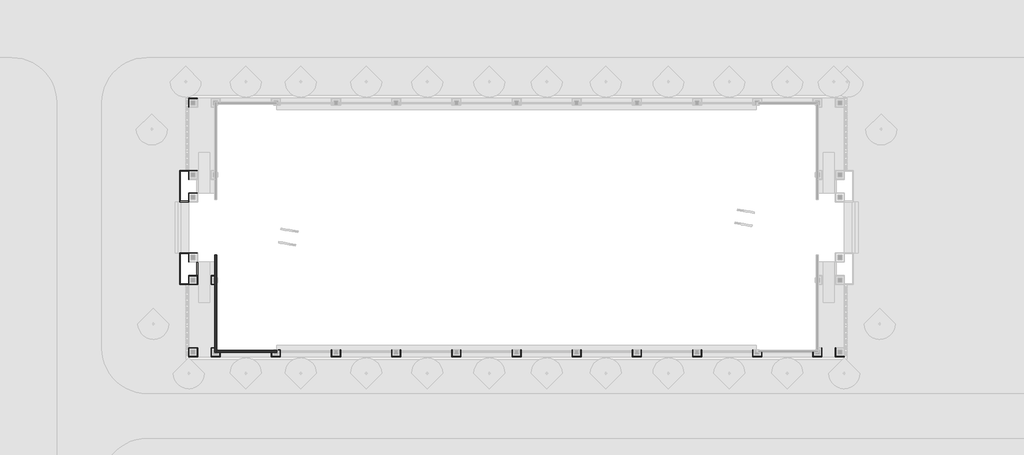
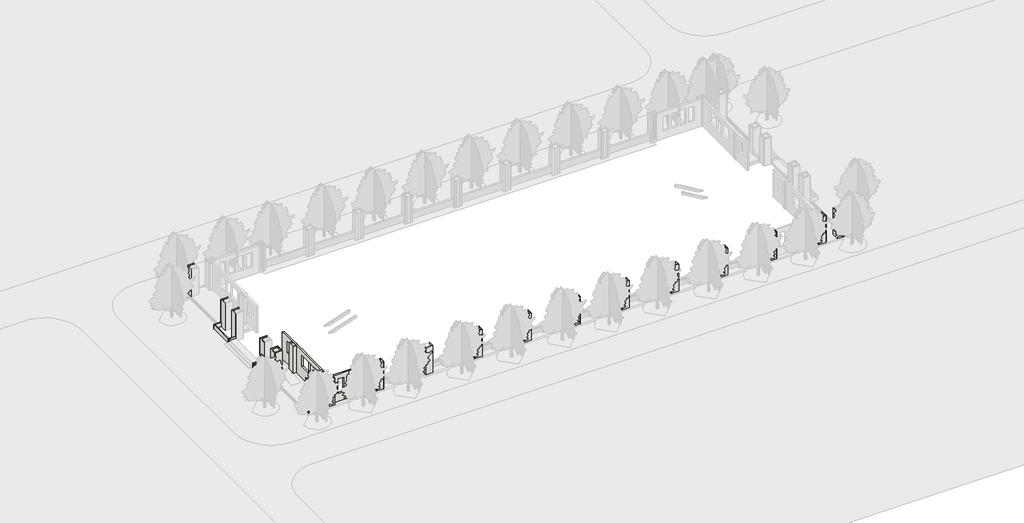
# One storey, part 1 of 5: 65 walls.
"""IFC4 building model written with IfcOpenShell, lengths in millimetres."""

import ifcopenshell
import ifcopenshell.guid

model = None  # the IFC model being written
_history = None  # IfcOwnerHistory: only IFC2X3 demands one
_inside = {}  # id of a spatial element -> (the spatial element, [elements in it])
_under = {}  # id of a project, library or spatial element -> (it, [spatial elements below it])
_declared = {}  # id of a project -> (the project, [libraries it declares])
_typed = {}  # id of a type object -> (the type object, [elements of that type])
_made_of = {}  # id of a material, layer set ... -> (it, [elements and type objects made of it])


def new_model(schema):
    """Start an empty IFC model of exactly this schema.

    Asked for "IFC4X3", IfcOpenShell would pick the latest addendum, in which some entities
    have other attributes; the version numbers below select the first issue.
    IFC2X3 requires an IfcOwnerHistory on every rooted entity: one is made here for all.
    """
    global model, _history
    if schema == "IFC4X3":
        model = ifcopenshell.file(schema_version=(4, 3, 0, 0))
    else:
        model = ifcopenshell.file(schema=schema)
    _inside.clear()
    _under.clear()
    _declared.clear()
    _typed.clear()
    _made_of.clear()
    _history = None
    if model.schema == "IFC2X3":
        org = make("IfcOrganization", Name="unknown")
        user = make(
            "IfcPersonAndOrganization",
            ThePerson=make("IfcPerson", FamilyName="unknown"),
            TheOrganization=org,
        )
        app = make(
            "IfcApplication",
            ApplicationDeveloper=org,
            Version="unknown",
            ApplicationFullName="unknown",
            ApplicationIdentifier="unknown",
        )
        _history = make(
            "IfcOwnerHistory",
            OwningUser=user,
            OwningApplication=app,
            ChangeAction="ADDED",
            CreationDate=0,
        )
    return model


def make(cls, **values):
    """One entity of the class cls with the attributes given. An attribute that is None is left unset."""
    return model.create_entity(
        cls, **{name: value for name, value in values.items() if value is not None}
    )


def rooted(cls, **values):
    """An entity with a GlobalId (a new one), such as an element, a storey or a relation."""
    return make(cls, GlobalId=ifcopenshell.guid.new(), OwnerHistory=_history, **values)


def si_unit(unit_type, name, prefix=None):
    """IfcSIUnit, for example si_unit("LENGTHUNIT", "METRE", prefix="MILLI")."""
    return make("IfcSIUnit", UnitType=unit_type, Prefix=prefix, Name=name)


def assignment(units):
    """IfcUnitAssignment: the units of a project."""
    return None if units is None else make("IfcUnitAssignment", Units=units)


def point(xyz):
    """IfcCartesianPoint."""
    return None if xyz is None else make("IfcCartesianPoint", Coordinates=xyz)


def direction(xyz):
    """IfcDirection."""
    return None if xyz is None else make("IfcDirection", DirectionRatios=xyz)


def frame(location, z_axis=None, x_axis=None):
    """IfcAxis2Placement3D, a coordinate frame: its origin and axes. An axis left out is left unset."""
    return make(
        "IfcAxis2Placement3D",
        Location=point(location),
        Axis=direction(z_axis),
        RefDirection=direction(x_axis),
    )


def origin():
    """The frame at (0, 0, 0) with its axes left unset."""
    return frame((0.0, 0.0, 0.0))


def place(relative_to, where):
    """IfcLocalPlacement: puts the frame where relative to a parent placement (None: the world)."""
    return make(
        "IfcLocalPlacement", PlacementRelTo=relative_to, RelativePlacement=where
    )


def context(
    kind, dimensions, precision=None, world=None, true_north=None, identifier=None
):
    """IfcGeometricRepresentationContext, for example the 3D "Model" context."""
    return make(
        "IfcGeometricRepresentationContext",
        ContextIdentifier=identifier,
        ContextType=kind,
        CoordinateSpaceDimension=dimensions,
        Precision=precision,
        WorldCoordinateSystem=world,
        TrueNorth=true_north,
    )


def project(units=None, contexts=None):
    """IfcProject with its units and contexts."""
    return rooted(
        "IfcProject",
        Name="project",
        RepresentationContexts=contexts,
        UnitsInContext=assignment(units),
    )


def spatial(cls, under=None, at=None, **own):
    """A site, building, storey or space (cls), placed at a placement, below another one or the project."""
    s = rooted(cls, ObjectPlacement=at, **own)
    if under is not None:
        _under.setdefault(under.id(), (under, []))[1].append(s)
    return s


def polyline(points):
    """IfcPolyline through the points."""
    return make("IfcPolyline", Points=[point(p) for p in points])


def outline(outer, holes=None, kind="AREA"):
    """IfcArbitraryClosedProfileDef: a profile drawn as a closed curve; with holes, ...WithVoids."""
    if holes is None:
        return make("IfcArbitraryClosedProfileDef", ProfileType=kind, OuterCurve=outer)
    return make(
        "IfcArbitraryProfileDefWithVoids",
        ProfileType=kind,
        OuterCurve=outer,
        InnerCurves=holes,
    )


def extrude(swept, where, along, depth):
    """IfcExtrudedAreaSolid: the profile swept, set in the frame where, extruded along a direction by depth."""
    return make(
        "IfcExtrudedAreaSolid",
        SweptArea=swept,
        Position=where,
        ExtrudedDirection=direction(along),
        Depth=depth,
    )


def faces_of(points, faces, orient=None, outer=None):
    """IfcFace entities. A face is a list of loops; a loop is a list of indices into points, from 0.

    orient and outer hold one flag for each loop. By default every Orientation is true, the
    first loop of a face is its IfcFaceOuterBound and the others are IfcFaceBound.
    """
    made = []
    for i, loops in enumerate(faces):
        bounds = []
        for j, loop in enumerate(loops):
            is_outer = j == 0 if outer is None else outer[i][j]
            bounds.append(
                make(
                    "IfcFaceOuterBound" if is_outer else "IfcFaceBound",
                    Bound=make("IfcPolyLoop", Polygon=[points[k] for k in loop]),
                    Orientation=True if orient is None else orient[i][j],
                )
            )
        made.append(make("IfcFace", Bounds=bounds))
    return made


def faceted_brep(points, faces, orient=None, outer=None, voids=None):
    """IfcFacetedBrep: a solid bounded by flat faces; with voids (closed shells), ...WithVoids."""
    shared = [point(p) for p in points]
    hull = make("IfcClosedShell", CfsFaces=faces_of(shared, faces, orient, outer))
    if voids is None:
        return make("IfcFacetedBrep", Outer=hull)
    return make(
        "IfcFacetedBrepWithVoids",
        Outer=hull,
        Voids=[
            make(cls, CfsFaces=faces_of(shared, fs, o, b)) for cls, fs, o, b in voids
        ],
    )


def shape(context_of_items, identifier, shape_type, items):
    """IfcShapeRepresentation: the items that make up one representation, for example the "Body"."""
    return make(
        "IfcShapeRepresentation",
        ContextOfItems=context_of_items,
        RepresentationIdentifier=identifier,
        RepresentationType=shape_type,
        Items=items,
    )


def made_of(thing, what):
    """Note that an element or type object is made of a material, layer set ...; save() writes the relation."""
    if what is not None:
        _made_of.setdefault(what.id(), (what, []))[1].append(thing)
    return thing


def element(
    cls,
    number,
    at=None,
    inside=None,
    cuts=None,
    type_object=None,
    material=None,
    context=None,
    identifier="Body",
    shape_type=None,
    held_by="IfcProductDefinitionShape",
    body=None,
    shapes=None,
    **own,
):
    """One element of the class cls, such as IfcWall. Its Tag is "e" and its number.

    at: its placement. inside: the storey or other place that contains it. cuts: it is an
    opening in that element (IfcRelVoidsElement). A single representation is given by context,
    identifier, shape_type and body (its items); several are given by shapes. held_by: the class
    of the entity that holds the representations. save() writes the other relations.
    """
    e = rooted(cls, Tag="e%d" % number, ObjectPlacement=at, **own)
    if body is not None:
        shapes = [shape(context, identifier, shape_type, body)]
    if shapes is not None:
        e.Representation = make(held_by, Representations=shapes)
    if inside is not None:
        _inside.setdefault(inside.id(), (inside, []))[1].append(e)
    if cuts is not None:
        rooted(
            "IfcRelVoidsElement", RelatingBuildingElement=cuts, RelatedOpeningElement=e
        )
    if type_object is not None:
        _typed.setdefault(type_object.id(), (type_object, []))[1].append(e)
    return made_of(e, material)


def aggregate(whole, parts):
    """IfcRelAggregates: a whole, such as a stair, and the parts it consists of."""
    return rooted("IfcRelAggregates", RelatingObject=whole, RelatedObjects=parts)


def save(model, path):
    """Write the relations noted so far, then the file.

    IfcRelAggregates (storeys below a building ...), IfcRelContainedInSpatialStructure (elements
    in a storey), IfcRelDefinesByType, IfcRelAssociatesMaterial and IfcRelDeclares: one each for
    every whole, place, type object, material and project.
    """
    for whole, parts in _under.values():
        aggregate(whole, parts)
    for where, things in _inside.values():
        rooted(
            "IfcRelContainedInSpatialStructure",
            RelatedElements=things,
            RelatingStructure=where,
        )
    for kind, things in _typed.values():
        rooted("IfcRelDefinesByType", RelatedObjects=things, RelatingType=kind)
    for what, things in _made_of.values():
        rooted("IfcRelAssociatesMaterial", RelatedObjects=things, RelatingMaterial=what)
    for by, libraries in _declared.values():
        rooted("IfcRelDeclares", RelatingContext=by, RelatedDefinitions=libraries)
    model.write(path)


model = new_model("IFC4")

# Units and contexts
model_context = context("Model", 3, world=origin())
ifc_project = project(units=[si_unit("LENGTHUNIT", "METRE", prefix="MILLI")], contexts=[model_context])

# Site, building, storey
site = spatial("IfcSite", under=ifc_project)
building = spatial("IfcBuilding", under=site)
storey = spatial("IfcBuildingStorey", under=building, Name="室外", Elevation=-450.0)

# Walls
placement = place(None, origin())
element("IfcWall", 1, ObjectType="教学楼 – 文化石外墙 – 200mm", at=placement, inside=storey, context=model_context, shape_type="Brep", body=[
    faceted_brep([(2897.0000002, 12900.0, -450.0), (2897.0000002, 9900.0, -450.0), (2897.0000002, 9300.0, -450.0), (2897.0000002, 300.0, -450.0), (2897.0000002, -52.6954639, -450.0), (2897.0000002, -52.6954639, 4200.0), (2897.0000002, 300.0, 4200.0), (2897.0000002, 9300.0, 4200.0), (2897.0000002, 9900.0, 4200.0), (2897.0000002, 12300.0, 4200.0), (2897.0000002, 12900.0, 4200.0), (2897.0000002, 12900.0, 0.0), (2897.0000002, 11550.0, 1500.0), (2897.0000002, 11550.0, 3400.0), (2897.0000002, 10650.0, 3400.0), (2897.0000002, 10650.0, 1500.0), (2897.0000002, 5500.1677972, 1500.0), (2897.0000002, 5500.1677972, 3400.0), (2897.0000002, 4300.1677972, 3400.0), (2897.0000002, 4300.1677972, 1500.0), (2897.0000002, 2300.1678314, 1500.0), (2897.0000002, 4100.1678314, 1500.0), (2897.0000002, 4100.1678314, 3400.0), (2897.0000002, 2300.1678314, 3400.0), (2897.0000002, 5700.1678279, 1500.0), (2897.0000002, 7500.1678279, 1500.0), (2897.0000002, 7500.1678279, 3400.0), (2897.0000002, 5700.1678279, 3400.0), (3167.0000002, 12900.0, -450.0), (3167.0000002, 12900.0, 0.0), (3167.0000002, 12900.0, 4200.0), (3167.0000002, 12300.0, 4200.0), (3167.0000002, 9917.276907, 4200.0), (3167.0000002, 9683.276907, 4200.0), (3167.0000002, 9300.0, 4200.0), (3167.0000002, 6717.7769017, 4200.0), (3167.0000002, 6483.7769017, 4200.0), (3167.0000002, 300.0, 4200.0), (3167.0000002, 217.3045361, 4200.0), (3167.0000002, -52.6954639, 4200.0), (3167.0000002, -52.6954639, -450.0), (3167.0000002, 217.3045361, -450.0), (3167.0000002, 300.0, -450.0), (3167.0000002, 9300.0, -450.0), (3167.0000002, 9900.0, -450.0), (3167.0000002, 11550.0, 1500.0), (3167.0000002, 10650.0, 1500.0), (3167.0000002, 10650.0, 3400.0), (3167.0000002, 11550.0, 3400.0), (3167.0000002, 5500.1677972, 1500.0), (3167.0000002, 4300.1677972, 1500.0), (3167.0000002, 4300.1677972, 3400.0), (3167.0000002, 5500.1677972, 3400.0), (3167.0000002, 2300.1678314, 1500.0), (3167.0000002, 2300.1678314, 3400.0), (3167.0000002, 4100.1678314, 3400.0), (3167.0000002, 4100.1678314, 1500.0), (3167.0000002, 5700.1678279, 1500.0), (3167.0000002, 5700.1678279, 3400.0), (3167.0000002, 7500.1678279, 3400.0), (3167.0000002, 7500.1678279, 1500.0)], [[[0, 1, 2, 3, 4, 5, 6, 7, 8, 9, 10, 11], [12, 13, 14, 15], [16, 17, 18, 19], [20, 21, 22, 23], [24, 25, 26, 27]], [[28, 29, 30, 31, 32, 33, 34, 35, 36, 37, 38, 39, 40, 41, 42, 43, 44], [45, 46, 47, 48], [49, 50, 51, 52], [53, 54, 55, 56], [57, 58, 59, 60]], [[4, 3, 2, 1, 0, 28, 44, 43, 42, 41, 40]], [[10, 9, 8, 7, 6, 5, 39, 38, 37, 36, 35, 34, 33, 32, 31, 30]], [[0, 11, 10, 30, 29, 28]], [[5, 4, 40, 39]], [[13, 12, 45, 48]], [[14, 13, 48, 47]], [[15, 14, 47, 46]], [[12, 15, 46, 45]], [[17, 16, 49, 52]], [[18, 17, 52, 51]], [[19, 18, 51, 50]], [[16, 19, 50, 49]], [[54, 53, 20, 23]], [[55, 54, 23, 22]], [[56, 55, 22, 21]], [[53, 56, 21, 20]], [[58, 57, 24, 27]], [[59, 58, 27, 26]], [[60, 59, 26, 25]], [[57, 60, 25, 24]]]),
])
element("IfcWall", 2, ObjectType="教学楼 – 文化石外墙 – 200mm", at=placement, inside=storey, context=model_context, shape_type="Brep", body=[
    faceted_brep([(3167.0000002, -52.6954639, -450.0), (3300.0, -52.6954639, -450.0), (10700.0, -52.6954639, -450.0), (11153.0, -52.6954639, -450.0), (11153.0, -52.6954639, 4200.0), (10700.0, -52.6954639, 4200.0), (3300.0, -52.6954639, 4200.0), (3167.0000002, -52.6954639, 4200.0), (9559.999993, -52.6954639, 900.0), (8659.999993, -52.6954639, 900.0), (8659.999993, -52.6954639, 3400.0), (9559.999993, -52.6954639, 3400.0), (8160.0000003, -52.6954639, 900.0), (7260.0000003, -52.6954639, 900.0), (7260.0000003, -52.6954639, 3400.0), (8160.0000003, -52.6954639, 3400.0), (6759.9999954, -52.6954639, 900.0), (5859.9999954, -52.6954639, 900.0), (5859.9999954, -52.6954639, 3400.0), (6759.9999954, -52.6954639, 3400.0), (5360.0000001, -52.6954639, 900.0), (4460.0000001, -52.6954639, 900.0), (4460.0000001, -52.6954639, 3400.0), (5360.0000001, -52.6954639, 3400.0), (3167.0000002, 217.3045361, -450.0), (3167.0000002, 217.3045361, 4200.0), (3300.0, 217.3045361, 4200.0), (6783.0000003, 217.3045361, 4200.0), (7017.0000003, 217.3045361, 4200.0), (10700.0, 217.3045361, 4200.0), (10883.0, 217.3045361, 4200.0), (11153.0, 217.3045361, 4200.0), (11153.0, 217.3045361, 0.0), (11153.0, 217.3045361, -450.0), (10700.0, 217.3045361, -450.0), (3300.0, 217.3045361, -450.0), (9559.999993, 217.3045361, 900.0), (9559.999993, 217.3045361, 3400.0), (8659.999993, 217.3045361, 3400.0), (8659.999993, 217.3045361, 900.0), (8160.0000003, 217.3045361, 900.0), (8160.0000003, 217.3045361, 3400.0), (7260.0000003, 217.3045361, 3400.0), (7260.0000003, 217.3045361, 900.0), (6759.9999954, 217.3045361, 900.0), (6759.9999954, 217.3045361, 3400.0), (5859.9999954, 217.3045361, 3400.0), (5859.9999954, 217.3045361, 900.0), (5360.0000001, 217.3045361, 900.0), (5360.0000001, 217.3045361, 3400.0), (4460.0000001, 217.3045361, 3400.0), (4460.0000001, 217.3045361, 900.0)], [[[0, 1, 2, 3, 4, 5, 6, 7], [8, 9, 10, 11], [12, 13, 14, 15], [16, 17, 18, 19], [20, 21, 22, 23]], [[24, 25, 26, 27, 28, 29, 30, 31, 32, 33, 34, 35], [36, 37, 38, 39], [40, 41, 42, 43], [44, 45, 46, 47], [48, 49, 50, 51]], [[3, 2, 1, 0, 24, 35, 34, 33]], [[7, 6, 5, 4, 31, 30, 29, 28, 27, 26, 25]], [[0, 7, 25, 24]], [[4, 3, 33, 32, 31]], [[37, 36, 8, 11]], [[38, 37, 11, 10]], [[39, 38, 10, 9]], [[36, 39, 9, 8]], [[41, 40, 12, 15]], [[42, 41, 15, 14]], [[43, 42, 14, 13]], [[40, 43, 13, 12]], [[45, 44, 16, 19]], [[46, 45, 19, 18]], [[47, 46, 18, 17]], [[44, 47, 17, 16]], [[49, 48, 20, 23]], [[50, 49, 23, 22]], [[51, 50, 22, 21]], [[48, 51, 21, 20]]]),
])
element("IfcWall", 3, ObjectType="教学楼 – 干挂石材 – 30mm", at=placement, inside=storey, context=model_context, shape_type="Brep", body=[
    faceted_brep([(-600.0000001, 33769.3961574, -450.0), (-570.0000001, 33769.3961574, -450.0), (570.0, 33769.3961574, -450.0), (570.0, 33769.3961574, 4200.0), (-570.0000001, 33769.3961574, 4200.0), (-600.0000001, 33769.3961574, 4200.0), (-600.0000001, 33799.3961574, -450.0), (-600.0000001, 33799.3961574, 4200.0), (570.0, 33799.3961574, 4200.0), (570.0, 33799.3961574, -450.0)], [[[0, 1, 2, 3, 4, 5]], [[6, 7, 8, 9]], [[2, 1, 0, 6, 9]], [[5, 4, 3, 8, 7]], [[0, 5, 7, 6]], [[3, 2, 9, 8]]]),
])
element("IfcWall", 4, ObjectType="教学楼 – 干挂石材 – 30mm", at=placement, inside=storey, context=model_context, shape_type="Brep", body=[
    faceted_brep([(-570.0000001, 32599.3961574, -450.0), (-570.0000001, 32629.3961574, -450.0), (-570.0000001, 33769.3961574, -450.0), (-570.0000001, 33769.3961574, 4200.0), (-570.0000001, 32629.3961574, 4200.0), (-570.0000001, 32599.3961574, 4200.0), (-600.0000001, 32599.3961574, -450.0), (-600.0000001, 32599.3961574, 4200.0), (-600.0000001, 33769.3961574, 4200.0), (-600.0000001, 33769.3961574, -450.0)], [[[0, 1, 2, 3, 4, 5]], [[6, 7, 8, 9]], [[2, 1, 0, 6, 9]], [[5, 4, 3, 8, 7]], [[0, 5, 7, 6]], [[3, 2, 9, 8]]]),
])
element("IfcWall", 5, ObjectType="教学楼 – 干挂石材 – 30mm", at=placement, inside=storey, context=model_context, shape_type="Brep", body=[
    faceted_brep([(-600.0000001, 24169.3961574, 4200.0), (-600.0000001, 24169.3961574, -450.0), (-570.0000001, 24169.3961574, -450.0), (570.0, 24169.3961574, -450.0), (570.0, 24169.3961574, 4200.0), (-570.0000001, 24169.3961574, 4200.0), (-600.0000001, 24199.3961574, -450.0), (-600.0000001, 24199.3961574, 4200.0), (570.0, 24199.3961574, 4200.0), (570.0, 24199.3961574, -450.0)], [[[0, 1, 2, 3, 4, 5]], [[6, 7, 8, 9]], [[3, 2, 1, 6, 9]], [[0, 5, 4, 8, 7]], [[4, 3, 9, 8]], [[0, 7, 6, 1]]]),
])
element("IfcWall", 6, ObjectType="教学楼 – 干挂石材 – 30mm", at=placement, inside=storey, context=model_context, shape_type="Brep", body=[
    faceted_brep([(-570.0000001, 22999.3961574, -450.0), (-570.0000001, 23029.3961574, -450.0), (-570.0000001, 24169.3961574, -450.0), (-570.0000001, 24169.3961574, 4200.0), (-570.0000001, 23029.3961574, 4200.0), (-570.0000001, 22999.3961574, 4200.0), (-600.0000001, 22999.3961574, -450.0), (-600.0000001, 22999.3961574, 4200.0), (-600.0000001, 24169.3961574, 4200.0), (-600.0000001, 24169.3961574, -450.0), (-600.0000001, 24099.6454368, -450.0)], [[[0, 1, 2, 3, 4, 5]], [[6, 7, 8, 9, 10]], [[2, 1, 0, 6, 10, 9]], [[5, 4, 3, 8, 7]], [[0, 5, 7, 6]], [[2, 9, 8, 3]]]),
])
element("IfcWall", 7, ObjectType="教学楼 – 干挂石材 – 30mm", at=placement, inside=storey, context=model_context, shape_type="Brep", body=[
    faceted_brep([(2897.0000002, 600.3045362, -450.0), (2400.0000001, 600.3045362, -450.0), (2400.0000001, 600.3045362, 4200.0), (2897.0000002, 600.3045362, 4200.0), (2897.0000002, 570.3045362, -450.0), (2897.0000002, 570.3045362, 4200.0), (2430.0000001, 570.3045362, 4200.0), (2400.0000001, 570.3045362, 4200.0), (2400.0000001, 570.3045362, -450.0), (2430.0000001, 570.3045362, -450.0)], [[[0, 1, 2, 3]], [[4, 5, 6, 7, 8, 9]], [[1, 0, 4, 9, 8]], [[3, 2, 7, 6, 5]], [[0, 3, 5, 4]], [[2, 1, 8, 7]]]),
])
element("IfcWall", 8, ObjectType="教学楼 – 干挂石材 – 30mm", at=placement, inside=storey, context=model_context, shape_type="Brep", body=[
    faceted_brep([(2400.0000001, 570.3045362, -450.0), (2400.0000001, -599.6954638, -450.0), (2400.0000001, -599.6954638, 4200.0), (2400.0000001, 570.3045362, 4200.0), (2430.0000001, 570.3045362, -450.0), (2430.0000001, 570.3045362, 4200.0), (2430.0000001, -569.6954638, 4200.0), (2430.0000001, -599.6954638, 4200.0), (2430.0000001, -599.6954638, -450.0), (2430.0000001, -569.6954638, -450.0)], [[[0, 1, 2, 3]], [[4, 5, 6, 7, 8, 9]], [[1, 0, 4, 9, 8]], [[3, 2, 7, 6, 5]], [[0, 3, 5, 4]], [[2, 1, 8, 7]]]),
])
element("IfcWall", 9, ObjectType="教学楼 – 干挂石材 – 30mm", at=placement, inside=storey, context=model_context, shape_type="Brep", body=[
    faceted_brep([(2430.0000001, -599.6954638, -450.0), (3600.0000001, -599.6954638, -450.0), (3600.0000001, -599.6954638, 4200.0), (2430.0000001, -599.6954638, 4200.0), (2430.0000001, -569.6954638, -450.0), (2430.0000001, -569.6954638, 4200.0), (3570.0000001, -569.6954638, 4200.0), (3600.0000001, -569.6954638, 4200.0), (3600.0000001, -569.6954638, -450.0), (3570.0000001, -569.6954638, -450.0)], [[[0, 1, 2, 3]], [[4, 5, 6, 7, 8, 9]], [[1, 0, 4, 9, 8]], [[3, 2, 7, 6, 5]], [[0, 3, 5, 4]], [[2, 1, 8, 7]]]),
])
element("IfcWall", 10, ObjectType="教学楼 – 干挂石材 – 30mm", at=placement, inside=storey, context=model_context, shape_type="SweptSolid", body=[
    extrude(outline(polyline([(3600.0000001, -52.6954639), (3600.0000001, -569.6954638), (3570.0000001, -569.6954638), (3570.0000001, -52.6954639), (3600.0000001, -52.6954639)])), frame((0.0, 0.0, -450.0), z_axis=(0.0, 0.0, 1.0), x_axis=(1.0, 0.0, 0.0)), (0.0, 0.0, 1.0), 4650.0),
])
element("IfcWall", 11, ObjectType="教学楼 – 干挂石材 – 30mm", at=placement, inside=storey, context=model_context, shape_type="Brep", body=[
    faceted_brep([(2897.0000005, 9030.3045362, -450.0), (2429.9999999, 9030.3045362, -450.0), (2399.9999999, 9030.3045362, -450.0), (2399.9999999, 9030.3045362, 4200.0), (2429.9999999, 9030.3045362, 4200.0), (2897.0000005, 9030.3045362, 4200.0), (2897.0000005, 9000.3045362, -450.0), (2897.0000005, 9000.3045362, 4200.0), (2399.9999999, 9000.3045362, 4200.0), (2399.9999999, 9000.3045362, -450.0)], [[[0, 1, 2, 3, 4, 5]], [[6, 7, 8, 9]], [[2, 1, 0, 6, 9]], [[5, 4, 3, 8, 7]], [[0, 5, 7, 6]], [[3, 2, 9, 8]]]),
])
element("IfcWall", 12, ObjectType="教学楼 – 干挂石材 – 30mm", at=placement, inside=storey, context=model_context, shape_type="Brep", body=[
    faceted_brep([(2429.9999999, 9030.3045362, -450.0), (2429.9999999, 10170.3045362, -450.0), (2429.9999999, 10200.3045362, -450.0), (2429.9999999, 10200.3045362, 4200.0), (2429.9999999, 10170.3045362, 4200.0), (2429.9999999, 9030.3045362, 4200.0), (2399.9999999, 9030.3045362, -450.0), (2399.9999999, 9030.3045362, 4200.0), (2399.9999999, 10200.3045362, 4200.0), (2399.9999999, 10200.3045362, -450.0)], [[[0, 1, 2, 3, 4, 5]], [[6, 7, 8, 9]], [[2, 1, 0, 6, 9]], [[5, 4, 3, 8, 7]], [[0, 5, 7, 6]], [[3, 2, 9, 8]]]),
])
element("IfcWall", 13, ObjectType="教学楼 – 干挂石材 – 30mm", at=placement, inside=storey, context=model_context, shape_type="SweptSolid", body=[
    extrude(outline(polyline([(2897.0000005, 10170.3045362), (2429.9999999, 10170.3045362), (2429.9999999, 10200.3045362), (2897.0000005, 10200.3045362), (2897.0000005, 10170.3045362)])), frame((0.0, 0.0, -450.0), z_axis=(0.0, 0.0, 1.0), x_axis=(1.0, 0.0, 0.0)), (0.0, 0.0, 1.0), 4650.0),
])
element("IfcWall", 14, ObjectType="教学楼 – 干挂石材 – 30mm", at=placement, inside=storey, context=model_context, shape_type="Brep", body=[
    faceted_brep([(-600.0000001, 21169.7006935, -450.0), (-570.0000001, 21169.7006935, -450.0), (570.0, 21169.7006935, -450.0), (570.0, 21169.7006935, 4200.0), (-570.0000001, 21169.7006935, 4200.0), (-600.0000001, 21169.7006935, 4200.0), (-600.0000001, 21199.7006935, -450.0), (-600.0000001, 21199.7006935, 4200.0), (570.0, 21199.7006935, 4200.0), (570.0, 21199.7006935, -450.0), (500.0, 21199.7006935, -450.0)], [[[0, 1, 2, 3, 4, 5]], [[6, 7, 8, 9, 10]], [[2, 1, 0, 6, 10, 9]], [[5, 4, 3, 8, 7]], [[0, 5, 7, 6]], [[2, 9, 8, 3]]]),
])
element("IfcWall", 15, ObjectType="教学楼 – 干挂石材 – 30mm", at=placement, inside=storey, context=model_context, shape_type="Brep", body=[
    faceted_brep([(-570.0000001, 19999.7006935, 4200.0), (-570.0000001, 19999.7006935, -450.0), (-570.0000001, 20029.7006935, -450.0), (-570.0000001, 21169.7006935, -450.0), (-570.0000001, 21169.7006935, 4200.0), (-570.0000001, 20029.7006935, 4200.0), (-600.0000001, 19999.7006935, -450.0), (-600.0000001, 19999.7006935, 300.0), (-600.0000001, 19999.7006935, 4200.0), (-600.0000001, 21169.7006935, 4200.0), (-600.0000001, 21169.7006935, -450.0), (-600.0000001, 20099.6902344, -450.0)], [[[0, 1, 2, 3, 4, 5]], [[6, 7, 8, 9, 10, 11]], [[3, 2, 1, 6, 11, 10]], [[0, 5, 4, 9, 8]], [[4, 3, 10, 9]], [[0, 8, 7, 6, 1]]]),
])
element("IfcWall", 16, ObjectType="教学楼 – 干挂石材 – 30mm", at=placement, inside=storey, context=model_context, shape_type="Brep", body=[
    faceted_brep([(-600.0000001, 13169.3961574, 4200.0), (-600.0000001, 13169.3961574, -450.0), (-570.0000001, 13169.3961574, -450.0), (570.0, 13169.3961574, -450.0), (570.0, 13169.3961574, 4200.0), (-570.0000001, 13169.3961574, 4200.0), (-600.0000001, 13199.3961574, -450.0), (-600.0000001, 13199.3961574, 4200.0), (570.0, 13199.3961574, 4200.0), (570.0, 13199.3961574, -450.0)], [[[0, 1, 2, 3, 4, 5]], [[6, 7, 8, 9]], [[3, 2, 1, 6, 9]], [[0, 5, 4, 8, 7]], [[4, 3, 9, 8]], [[0, 7, 6, 1]]]),
])
element("IfcWall", 17, ObjectType="教学楼 – 干挂石材 – 30mm", at=placement, inside=storey, context=model_context, shape_type="Brep", body=[
    faceted_brep([(-570.0000001, 11999.3961574, -450.0), (-570.0000001, 12029.3961574, -450.0), (-570.0000001, 13169.3961574, -450.0), (-570.0000001, 13169.3961574, 4200.0), (-570.0000001, 12029.3961574, 4200.0), (-570.0000001, 11999.3961574, 4200.0), (-600.0000001, 11999.3961574, -450.0), (-600.0000001, 11999.3961574, 4200.0), (-600.0000001, 13169.3961574, 4200.0), (-600.0000001, 13169.3961574, -450.0), (-600.0000001, 13100.3097656, -450.0)], [[[0, 1, 2, 3, 4, 5]], [[6, 7, 8, 9, 10]], [[2, 1, 0, 6, 10, 9]], [[5, 4, 3, 8, 7]], [[0, 5, 7, 6]], [[2, 9, 8, 3]]]),
])
element("IfcWall", 18, ObjectType="教学楼 – 干挂石材 – 30mm", at=placement, inside=storey, context=model_context, shape_type="Brep", body=[
    faceted_brep([(-600.0000001, 10169.451414, -450.0), (-570.0000001, 10169.451414, -450.0), (570.0, 10169.451414, -450.0), (570.0, 10169.451414, 4200.0), (-570.0000001, 10169.451414, 4200.0), (-600.0000001, 10169.451414, 4200.0), (-600.0000001, 10199.451414, -450.0), (-600.0000001, 10199.451414, 4200.0), (570.0, 10199.451414, 4200.0), (570.0, 10199.451414, -450.0), (500.0, 10199.451414, -450.0)], [[[0, 1, 2, 3, 4, 5]], [[6, 7, 8, 9, 10]], [[2, 1, 0, 6, 10, 9]], [[5, 4, 3, 8, 7]], [[0, 5, 7, 6]], [[2, 9, 8, 3]]]),
])
element("IfcWall", 19, ObjectType="教学楼 – 干挂石材 – 30mm", at=placement, inside=storey, context=model_context, shape_type="Brep", body=[
    faceted_brep([(-570.0000001, 8999.451414, 4200.0), (-570.0000001, 8999.451414, -450.0), (-570.0000001, 9029.451414, -450.0), (-570.0000001, 10169.451414, -450.0), (-570.0000001, 10169.451414, 4200.0), (-570.0000001, 9029.451414, 4200.0), (-600.0000001, 8999.451414, -450.0), (-600.0000001, 8999.451414, 4200.0), (-600.0000001, 10169.451414, 4200.0), (-600.0000001, 10169.451414, -450.0), (-600.0000001, 9100.3545632, -450.0), (-600.0000001, 9000.3545632, -450.0)], [[[0, 1, 2, 3, 4, 5]], [[6, 7, 8, 9, 10, 11]], [[3, 2, 1, 6, 11, 10, 9]], [[0, 5, 4, 8, 7]], [[4, 3, 9, 8]], [[0, 7, 6, 1]]]),
])
element("IfcWall", 20, ObjectType="教学楼 – 干挂石材 – 30mm", at=placement, inside=storey, context=model_context, shape_type="Brep", body=[
    faceted_brep([(600.0, 9029.451414, -450.0), (570.0, 9029.451414, -450.0), (-570.0000001, 9029.451414, -450.0), (-570.0000001, 9029.451414, 4200.0), (570.0, 9029.451414, 4200.0), (600.0, 9029.451414, 4200.0), (600.0, 8999.451414, -450.0), (600.0, 8999.451414, 4200.0), (-570.0000001, 8999.451414, 4200.0), (-570.0000001, 8999.451414, -450.0)], [[[0, 1, 2, 3, 4, 5]], [[6, 7, 8, 9]], [[2, 1, 0, 6, 9]], [[5, 4, 3, 8, 7]], [[0, 5, 7, 6]], [[2, 9, 8, 3]]]),
])
element("IfcWall", 21, ObjectType="教学楼 – 干挂石材 – 30mm", at=placement, inside=storey, context=model_context, shape_type="Brep", body=[
    faceted_brep([(570.0, 10199.451414, 4200.0), (570.0, 10199.451414, -450.0), (570.0, 10169.451414, -450.0), (570.0, 9029.451414, -450.0), (570.0, 9029.451414, 4200.0), (570.0, 10169.451414, 4200.0), (600.0, 10199.451414, -450.0), (600.0, 10199.451414, 300.0), (600.0, 10199.451414, 4200.0), (600.0, 9029.451414, 4200.0), (600.0, 9029.451414, -450.0)], [[[0, 1, 2, 3, 4, 5]], [[6, 7, 8, 9, 10]], [[3, 2, 1, 6, 10]], [[0, 5, 4, 9, 8]], [[4, 3, 10, 9]], [[0, 8, 7, 6, 1]]]),
])
element("IfcWall", 22, ObjectType="教学楼 – 干挂石材 – 30mm", at=placement, inside=storey, context=model_context, shape_type="Brep", body=[
    faceted_brep([(-600.0000001, 569.7006935, -450.0), (-570.0000001, 569.7006935, -450.0), (570.0, 569.7006935, -450.0), (570.0, 569.7006935, 4200.0), (-570.0000001, 569.7006935, 4200.0), (-600.0000001, 569.7006935, 4200.0), (-600.0000001, 599.7006935, -450.0), (-600.0000001, 599.7006935, 4200.0), (570.0, 599.7006935, 4200.0), (570.0, 599.7006935, -450.0)], [[[0, 1, 2, 3, 4, 5]], [[6, 7, 8, 9]], [[2, 1, 0, 6, 9]], [[5, 4, 3, 8, 7]], [[0, 5, 7, 6]], [[3, 2, 9, 8]]]),
])
element("IfcWall", 23, ObjectType="教学楼 – 干挂石材 – 30mm", at=placement, inside=storey, context=model_context, shape_type="Brep", body=[
    faceted_brep([(-570.0000001, -600.2993065, -450.0), (-570.0000001, -570.2993065, -450.0), (-570.0000001, 569.7006935, -450.0), (-570.0000001, 569.7006935, 4200.0), (-570.0000001, -570.2993065, 4200.0), (-570.0000001, -600.2993065, 4200.0), (-600.0000001, -600.2993065, -450.0), (-600.0000001, -600.2993065, 4200.0), (-600.0000001, 569.7006935, 4200.0), (-600.0000001, 569.7006935, -450.0)], [[[0, 1, 2, 3, 4, 5]], [[6, 7, 8, 9]], [[2, 1, 0, 6, 9]], [[5, 4, 3, 8, 7]], [[0, 5, 7, 6]], [[3, 2, 9, 8]]]),
])
element("IfcWall", 24, ObjectType="教学楼 – 干挂石材 – 30mm", at=placement, inside=storey, context=model_context, shape_type="Brep", body=[
    faceted_brep([(600.0, -570.2993065, -450.0), (570.0, -570.2993065, -450.0), (-570.0000001, -570.2993065, -450.0), (-570.0000001, -570.2993065, 4200.0), (570.0, -570.2993065, 4200.0), (600.0, -570.2993065, 4200.0), (600.0, -600.2993065, -450.0), (600.0, -600.2993065, 4200.0), (-570.0000001, -600.2993065, 4200.0), (-570.0000001, -600.2993065, -450.0)], [[[0, 1, 2, 3, 4, 5]], [[6, 7, 8, 9]], [[2, 1, 0, 6, 9]], [[5, 4, 3, 8, 7]], [[0, 5, 7, 6]], [[3, 2, 9, 8]]]),
])
element("IfcWall", 25, ObjectType="教学楼 – 干挂石材 – 30mm", at=placement, inside=storey, context=model_context, shape_type="Brep", body=[
    faceted_brep([(570.0, 599.7006935, -450.0), (570.0, 569.7006935, -450.0), (570.0, -570.2993065, -450.0), (570.0, -570.2993065, 4200.0), (570.0, 569.7006935, 4200.0), (570.0, 599.7006935, 4200.0), (600.0, 599.7006935, -450.0), (600.0, 599.7006935, 4200.0), (600.0, -570.2993065, 4200.0), (600.0, -570.2993065, -450.0)], [[[0, 1, 2, 3, 4, 5]], [[6, 7, 8, 9]], [[2, 1, 0, 6, 9]], [[5, 4, 3, 8, 7]], [[0, 5, 7, 6]], [[3, 2, 9, 8]]]),
])
element("IfcWall", 26, ObjectType="教学楼 – 干挂石材 – 30mm", at=placement, inside=storey, context=model_context, shape_type="Brep", body=[
    faceted_brep([(86600.0000001, -569.3961574, -450.0), (86570.0000001, -569.3961574, -450.0), (85430.0, -569.3961574, -450.0), (85430.0, -569.3961574, 4200.0), (86570.0000001, -569.3961574, 4200.0), (86600.0000001, -569.3961574, 4200.0), (86600.0000001, -599.3961574, -450.0), (86600.0000001, -599.3961574, 4200.0), (85430.0, -599.3961574, 4200.0), (85430.0, -599.3961574, -450.0)], [[[0, 1, 2, 3, 4, 5]], [[6, 7, 8, 9]], [[2, 1, 0, 6, 9]], [[5, 4, 3, 8, 7]], [[0, 5, 7, 6]], [[3, 2, 9, 8]]]),
])
element("IfcWall", 27, ObjectType="教学楼 – 干挂石材 – 30mm", at=placement, inside=storey, context=model_context, shape_type="Brep", body=[
    faceted_brep([(85430.0, -599.3961574, -450.0), (85430.0, -569.3961574, -450.0), (85430.0, 570.6038426, -450.0), (85430.0, 570.6038426, 4200.0), (85430.0, -569.3961574, 4200.0), (85430.0, -599.3961574, 4200.0), (85400.0, -599.3961574, -450.0), (85400.0, -599.3961574, 4200.0), (85400.0, 570.6038426, 4200.0), (85400.0, 570.6038426, -450.0)], [[[0, 1, 2, 3, 4, 5]], [[6, 7, 8, 9]], [[2, 1, 0, 6, 9]], [[5, 4, 3, 8, 7]], [[0, 5, 7, 6]], [[3, 2, 9, 8]]]),
])
element("IfcWall", 28, ObjectType="教学楼 – 干挂石材 – 30mm", at=placement, inside=storey, context=model_context, shape_type="Brep", body=[
    faceted_brep([(83569.9999999, 570.3045362, -450.0), (83569.9999999, -569.6954638, -450.0), (83569.9999999, -599.6954638, -450.0), (83569.9999999, -599.6954638, 4200.0), (83569.9999999, -569.6954638, 4200.0), (83569.9999999, 570.3045362, 4200.0), (83599.9999999, 570.3045362, -450.0), (83599.9999999, 570.3045362, 4200.0), (83599.9999999, -599.6954638, 4200.0), (83599.9999999, -599.6954638, -450.0)], [[[0, 1, 2, 3, 4, 5]], [[6, 7, 8, 9]], [[2, 1, 0, 6, 9]], [[5, 4, 3, 8, 7]], [[0, 5, 7, 6]], [[3, 2, 9, 8]]]),
])
element("IfcWall", 29, ObjectType="教学楼 – 干挂石材 – 30mm", at=placement, inside=storey, context=model_context, shape_type="Brep", body=[
    faceted_brep([(83569.9999999, -569.6954638, -450.0), (82429.9999999, -569.6954638, -450.0), (82399.9999999, -569.6954638, -450.0), (82399.9999999, -569.6954638, 4200.0), (82429.9999999, -569.6954638, 4200.0), (83569.9999999, -569.6954638, 4200.0), (83569.9999999, -599.6954638, -450.0), (83569.9999999, -599.6954638, 4200.0), (82399.9999999, -599.6954638, 4200.0), (82399.9999999, -599.6954638, -450.0)], [[[0, 1, 2, 3, 4, 5]], [[6, 7, 8, 9]], [[2, 1, 0, 6, 9]], [[5, 4, 3, 8, 7]], [[0, 5, 7, 6]], [[3, 2, 9, 8]]]),
])
element("IfcWall", 30, ObjectType="教学楼 – 干挂石材 – 30mm", at=placement, inside=storey, context=model_context, shape_type="SweptSolid", body=[
    extrude(outline(polyline([(82429.9999999, -52.6954639), (82429.9999999, -569.6954638), (82399.9999999, -569.6954638), (82399.9999999, -52.6954639), (82429.9999999, -52.6954639)])), frame((0.0, 0.0, -450.0), z_axis=(0.0, 0.0, 1.0), x_axis=(1.0, 0.0, 0.0)), (0.0, 0.0, 1.0), 4650.0),
])
element("IfcWall", 31, ObjectType="教学楼 – 干挂石材 – 30mm", at=placement, inside=storey, context=model_context, shape_type="Brep", body=[
    faceted_brep([(75569.9999991, -53.304536, -450.0), (75569.9999991, -570.2492803, -450.0), (75569.9999991, -600.2492803, -450.0), (75569.9999991, -600.2492803, 4200.0), (75569.9999991, -570.2492803, 4200.0), (75569.9999991, -53.304536, 4200.0), (75599.9999991, -53.304536, -450.0), (75599.9999991, -53.304536, 4200.0), (75599.9999991, -600.2492803, 4200.0), (75599.9999991, -600.2492803, -450.0)], [[[0, 1, 2, 3, 4, 5]], [[6, 7, 8, 9]], [[2, 1, 0, 6, 9]], [[5, 4, 3, 8, 7]], [[0, 5, 7, 6]], [[3, 2, 9, 8]]]),
])
element("IfcWall", 32, ObjectType="教学楼 – 干挂石材 – 30mm", at=placement, inside=storey, context=model_context, shape_type="Brep", body=[
    faceted_brep([(75569.9999991, -570.2492803, -450.0), (74430.0000001, -570.2492803, -450.0), (74400.0000001, -570.2492803, -450.0), (74400.0000001, -570.2492803, 4200.0), (74430.0000001, -570.2492803, 4200.0), (75569.9999991, -570.2492803, 4200.0), (75569.9999991, -600.2492803, -450.0), (75569.9999991, -600.2492803, 4200.0), (74400.0000001, -600.2492803, 4200.0), (74400.0000001, -600.2492803, -450.0)], [[[0, 1, 2, 3, 4, 5]], [[6, 7, 8, 9]], [[2, 1, 0, 6, 9]], [[5, 4, 3, 8, 7]], [[0, 5, 7, 6]], [[3, 2, 9, 8]]]),
])
element("IfcWall", 33, ObjectType="教学楼 – 干挂石材 – 30mm", at=placement, inside=storey, context=model_context, shape_type="Brep", body=[
    faceted_brep([(74430.0000001, -570.2492803, -450.0), (74430.0000001, 269.7507199, -450.0), (74430.0000001, 299.7507199, -450.0), (74430.0000001, 299.7507199, 4200.0), (74430.0000001, 269.7507199, 4200.0), (74430.0000001, -570.2492803, 4200.0), (74400.0000001, -570.2492803, -450.0), (74400.0000001, -570.2492803, 4200.0), (74400.0000001, 299.7507199, 4200.0), (74400.0000001, 299.7507199, -450.0)], [[[0, 1, 2, 3, 4, 5]], [[6, 7, 8, 9]], [[2, 1, 0, 6, 9]], [[5, 4, 3, 8, 7]], [[0, 5, 7, 6]], [[3, 2, 9, 8]]]),
])
element("IfcWall", 34, ObjectType="教学楼 – 干挂石材 – 30mm", at=placement, inside=storey, context=model_context, shape_type="Brep", body=[
    faceted_brep([(10400.0000009, -52.6954639, -450.0), (10400.0000009, -599.6402082, -450.0), (10400.0000009, -599.6402082, 4200.0), (10400.0000009, -52.6954639, 4200.0), (10430.0000009, -52.6954639, -450.0), (10430.0000009, -52.6954639, 4200.0), (10430.0000009, -569.6402082, 4200.0), (10430.0000009, -599.6402082, 4200.0), (10430.0000009, -599.6402082, -450.0), (10430.0000009, -569.6402082, -450.0)], [[[0, 1, 2, 3]], [[4, 5, 6, 7, 8, 9]], [[1, 0, 4, 9, 8]], [[3, 2, 7, 6, 5]], [[0, 3, 5, 4]], [[2, 1, 8, 7]]]),
])
element("IfcWall", 35, ObjectType="教学楼 – 干挂石材 – 30mm", at=placement, inside=storey, context=model_context, shape_type="Brep", body=[
    faceted_brep([(10430.0000009, -599.6402082, -450.0), (11599.9999999, -599.6402082, -450.0), (11599.9999999, -599.6402082, 4200.0), (10430.0000009, -599.6402082, 4200.0), (10430.0000009, -569.6402082, -450.0), (10430.0000009, -569.6402082, 4200.0), (11569.9999999, -569.6402082, 4200.0), (11599.9999999, -569.6402082, 4200.0), (11599.9999999, -569.6402082, -450.0), (11569.9999999, -569.6402082, -450.0)], [[[0, 1, 2, 3]], [[4, 5, 6, 7, 8, 9]], [[1, 0, 4, 9, 8]], [[3, 2, 7, 6, 5]], [[0, 3, 5, 4]], [[2, 1, 8, 7]]]),
])
element("IfcWall", 36, ObjectType="教学楼 – 干挂石材 – 30mm", at=placement, inside=storey, context=model_context, shape_type="Brep", body=[
    faceted_brep([(11599.9999999, -569.6402082, -450.0), (11599.9999999, 300.359792, -450.0), (11599.9999999, 300.359792, 4200.0), (11599.9999999, -569.6402082, 4200.0), (11569.9999999, -569.6402082, -450.0), (11569.9999999, -569.6402082, 4200.0), (11569.9999999, 270.359792, 4200.0), (11569.9999999, 300.359792, 4200.0), (11569.9999999, 300.359792, -450.0), (11569.9999999, 270.359792, -450.0)], [[[0, 1, 2, 3]], [[4, 5, 6, 7, 8, 9]], [[1, 0, 4, 9, 8]], [[3, 2, 7, 6, 5]], [[0, 3, 5, 4]], [[2, 1, 8, 7]]]),
])
element("IfcWall", 37, ObjectType="教学楼 – 干挂石材 – 30mm", at=placement, inside=storey, context=model_context, shape_type="Brep", body=[
    faceted_brep([(11569.9999999, 300.359792, -450.0), (11300.0, 300.359792, -450.0), (11300.0, 300.359792, 4200.0), (11569.9999999, 300.359792, 4200.0), (11569.9999999, 270.359792, -450.0), (11569.9999999, 270.359792, 4200.0), (11300.0, 270.359792, 4200.0), (11300.0, 270.359792, -450.0), (11300.0, 300.0, -450.0), (11300.0, 300.0, 4200.0)], [[[0, 1, 2, 3]], [[4, 5, 6, 7]], [[1, 0, 4, 7, 8]], [[2, 1, 8, 7, 6, 9]], [[3, 2, 9, 6, 5]], [[0, 3, 5, 4]]]),
])
element("IfcWall", 38, ObjectType="教学楼 – 干挂石材 – 30mm", at=placement, inside=storey, context=model_context, shape_type="Brep", body=[
    faceted_brep([(18400.0000009, 270.359792, -450.0), (18400.0000009, -599.6402082, -450.0), (18400.0000009, -599.6402082, 4200.0), (18400.0000009, 270.359792, 4200.0), (18430.0000009, 270.359792, -450.0), (18430.0000009, 270.359792, 4200.0), (18430.0000009, -569.6402082, 4200.0), (18430.0000009, -599.6402082, 4200.0), (18430.0000009, -599.6402082, -450.0), (18430.0000009, -569.6402082, -450.0)], [[[0, 1, 2, 3]], [[4, 5, 6, 7, 8, 9]], [[1, 0, 4, 9, 8]], [[3, 2, 7, 6, 5]], [[0, 3, 5, 4]], [[2, 1, 8, 7]]]),
])
element("IfcWall", 39, ObjectType="教学楼 – 干挂石材 – 30mm", at=placement, inside=storey, context=model_context, shape_type="Brep", body=[
    faceted_brep([(18430.0000009, -599.6402082, -450.0), (19599.9999999, -599.6402082, -450.0), (19599.9999999, -599.6402082, 4200.0), (18430.0000009, -599.6402082, 4200.0), (18430.0000009, -569.6402082, -450.0), (18430.0000009, -569.6402082, 4200.0), (19569.9999999, -569.6402082, 4200.0), (19599.9999999, -569.6402082, 4200.0), (19599.9999999, -569.6402082, -450.0), (19569.9999999, -569.6402082, -450.0)], [[[0, 1, 2, 3]], [[4, 5, 6, 7, 8, 9]], [[1, 0, 4, 9, 8]], [[3, 2, 7, 6, 5]], [[0, 3, 5, 4]], [[2, 1, 8, 7]]]),
])
element("IfcWall", 40, ObjectType="教学楼 – 干挂石材 – 30mm", at=placement, inside=storey, context=model_context, shape_type="Brep", body=[
    faceted_brep([(19599.9999999, -569.6402082, -450.0), (19599.9999999, 300.359792, -450.0), (19599.9999999, 300.359792, 4200.0), (19599.9999999, -569.6402082, 4200.0), (19569.9999999, -569.6402082, -450.0), (19569.9999999, -569.6402082, 4200.0), (19569.9999999, 270.359792, 4200.0), (19569.9999999, 300.359792, 4200.0), (19569.9999999, 300.359792, -450.0), (19569.9999999, 270.359792, -450.0)], [[[0, 1, 2, 3]], [[4, 5, 6, 7, 8, 9]], [[1, 0, 4, 9, 8]], [[3, 2, 7, 6, 5]], [[0, 3, 5, 4]], [[2, 1, 8, 7]]]),
])
element("IfcWall", 41, ObjectType="教学楼 – 干挂石材 – 30mm", at=placement, inside=storey, context=model_context, shape_type="Brep", body=[
    faceted_brep([(26400.0000009, 270.359792, -450.0), (26400.0000009, -599.6402082, -450.0), (26400.0000009, -599.6402082, 4200.0), (26400.0000009, 270.359792, 4200.0), (26430.0000009, 270.359792, -450.0), (26430.0000009, 270.359792, 4200.0), (26430.0000009, -569.6402082, 4200.0), (26430.0000009, -599.6402082, 4200.0), (26430.0000009, -599.6402082, -450.0), (26430.0000009, -569.6402082, -450.0)], [[[0, 1, 2, 3]], [[4, 5, 6, 7, 8, 9]], [[1, 0, 4, 9, 8]], [[3, 2, 7, 6, 5]], [[0, 3, 5, 4]], [[2, 1, 8, 7]]]),
])
element("IfcWall", 42, ObjectType="教学楼 – 干挂石材 – 30mm", at=placement, inside=storey, context=model_context, shape_type="Brep", body=[
    faceted_brep([(26430.0000009, -599.6402082, -450.0), (27599.9999999, -599.6402082, -450.0), (27599.9999999, -599.6402082, 4200.0), (26430.0000009, -599.6402082, 4200.0), (26430.0000009, -569.6402082, -450.0), (26430.0000009, -569.6402082, 4200.0), (27569.9999999, -569.6402082, 4200.0), (27599.9999999, -569.6402082, 4200.0), (27599.9999999, -569.6402082, -450.0), (27569.9999999, -569.6402082, -450.0)], [[[0, 1, 2, 3]], [[4, 5, 6, 7, 8, 9]], [[1, 0, 4, 9, 8]], [[3, 2, 7, 6, 5]], [[0, 3, 5, 4]], [[2, 1, 8, 7]]]),
])
element("IfcWall", 43, ObjectType="教学楼 – 干挂石材 – 30mm", at=placement, inside=storey, context=model_context, shape_type="Brep", body=[
    faceted_brep([(27599.9999999, -569.6402082, -450.0), (27599.9999999, 300.359792, -450.0), (27599.9999999, 300.359792, 4200.0), (27599.9999999, -569.6402082, 4200.0), (27569.9999999, -569.6402082, -450.0), (27569.9999999, -569.6402082, 4200.0), (27569.9999999, 270.359792, 4200.0), (27569.9999999, 300.359792, 4200.0), (27569.9999999, 300.359792, -450.0), (27569.9999999, 270.359792, -450.0)], [[[0, 1, 2, 3]], [[4, 5, 6, 7, 8, 9]], [[1, 0, 4, 9, 8]], [[3, 2, 7, 6, 5]], [[0, 3, 5, 4]], [[2, 1, 8, 7]]]),
])
element("IfcWall", 44, ObjectType="教学楼 – 干挂石材 – 30mm", at=placement, inside=storey, context=model_context, shape_type="Brep", body=[
    faceted_brep([(34400.0000009, 270.359792, -450.0), (34400.0000009, -599.6402082, -450.0), (34400.0000009, -599.6402082, 4200.0), (34400.0000009, 270.359792, 4200.0), (34430.0000009, 270.359792, -450.0), (34430.0000009, 270.359792, 4200.0), (34430.0000009, -569.6402082, 4200.0), (34430.0000009, -599.6402082, 4200.0), (34430.0000009, -599.6402082, -450.0), (34430.0000009, -569.6402082, -450.0)], [[[0, 1, 2, 3]], [[4, 5, 6, 7, 8, 9]], [[1, 0, 4, 9, 8]], [[3, 2, 7, 6, 5]], [[0, 3, 5, 4]], [[2, 1, 8, 7]]]),
])
element("IfcWall", 45, ObjectType="教学楼 – 干挂石材 – 30mm", at=placement, inside=storey, context=model_context, shape_type="Brep", body=[
    faceted_brep([(34430.0000009, -599.6402082, -450.0), (35599.9999999, -599.6402082, -450.0), (35599.9999999, -599.6402082, 4200.0), (34430.0000009, -599.6402082, 4200.0), (34430.0000009, -569.6402082, -450.0), (34430.0000009, -569.6402082, 4200.0), (35569.9999999, -569.6402082, 4200.0), (35599.9999999, -569.6402082, 4200.0), (35599.9999999, -569.6402082, -450.0), (35569.9999999, -569.6402082, -450.0)], [[[0, 1, 2, 3]], [[4, 5, 6, 7, 8, 9]], [[1, 0, 4, 9, 8]], [[3, 2, 7, 6, 5]], [[0, 3, 5, 4]], [[2, 1, 8, 7]]]),
])
element("IfcWall", 46, ObjectType="教学楼 – 干挂石材 – 30mm", at=placement, inside=storey, context=model_context, shape_type="Brep", body=[
    faceted_brep([(35599.9999999, -569.6402082, -450.0), (35599.9999999, 300.359792, -450.0), (35599.9999999, 300.359792, 4200.0), (35599.9999999, -569.6402082, 4200.0), (35569.9999999, -569.6402082, -450.0), (35569.9999999, -569.6402082, 4200.0), (35569.9999999, 270.359792, 4200.0), (35569.9999999, 300.359792, 4200.0), (35569.9999999, 300.359792, -450.0), (35569.9999999, 270.359792, -450.0)], [[[0, 1, 2, 3]], [[4, 5, 6, 7, 8, 9]], [[1, 0, 4, 9, 8]], [[3, 2, 7, 6, 5]], [[0, 3, 5, 4]], [[2, 1, 8, 7]]]),
])
element("IfcWall", 47, ObjectType="教学楼 – 干挂石材 – 30mm", at=placement, inside=storey, context=model_context, shape_type="Brep", body=[
    faceted_brep([(42400.0000009, 270.359792, -450.0), (42400.0000009, -599.6402082, -450.0), (42400.0000009, -599.6402082, 4200.0), (42400.0000009, 270.359792, 4200.0), (42430.0000009, 270.359792, -450.0), (42430.0000009, 270.359792, 4200.0), (42430.0000009, -569.6402082, 4200.0), (42430.0000009, -599.6402082, 4200.0), (42430.0000009, -599.6402082, -450.0), (42430.0000009, -569.6402082, -450.0)], [[[0, 1, 2, 3]], [[4, 5, 6, 7, 8, 9]], [[1, 0, 4, 9, 8]], [[3, 2, 7, 6, 5]], [[0, 3, 5, 4]], [[2, 1, 8, 7]]]),
])
element("IfcWall", 48, ObjectType="教学楼 – 干挂石材 – 30mm", at=placement, inside=storey, context=model_context, shape_type="Brep", body=[
    faceted_brep([(42430.0000009, -599.6402082, -450.0), (43599.9999999, -599.6402082, -450.0), (43599.9999999, -599.6402082, 4200.0), (42430.0000009, -599.6402082, 4200.0), (42430.0000009, -569.6402082, -450.0), (42430.0000009, -569.6402082, 4200.0), (43569.9999999, -569.6402082, 4200.0), (43599.9999999, -569.6402082, 4200.0), (43599.9999999, -569.6402082, -450.0), (43569.9999999, -569.6402082, -450.0)], [[[0, 1, 2, 3]], [[4, 5, 6, 7, 8, 9]], [[1, 0, 4, 9, 8]], [[3, 2, 7, 6, 5]], [[0, 3, 5, 4]], [[2, 1, 8, 7]]]),
])
element("IfcWall", 49, ObjectType="教学楼 – 干挂石材 – 30mm", at=placement, inside=storey, context=model_context, shape_type="Brep", body=[
    faceted_brep([(43599.9999999, -569.6402082, -450.0), (43599.9999999, 300.359792, -450.0), (43599.9999999, 300.359792, 4200.0), (43599.9999999, -569.6402082, 4200.0), (43569.9999999, -569.6402082, -450.0), (43569.9999999, -569.6402082, 4200.0), (43569.9999999, 270.359792, 4200.0), (43569.9999999, 300.359792, 4200.0), (43569.9999999, 300.359792, -450.0), (43569.9999999, 270.359792, -450.0)], [[[0, 1, 2, 3]], [[4, 5, 6, 7, 8, 9]], [[1, 0, 4, 9, 8]], [[3, 2, 7, 6, 5]], [[0, 3, 5, 4]], [[2, 1, 8, 7]]]),
])
element("IfcWall", 50, ObjectType="教学楼 – 干挂石材 – 30mm", at=placement, inside=storey, context=model_context, shape_type="Brep", body=[
    faceted_brep([(50400.0000009, 270.359792, -450.0), (50400.0000009, -599.6402082, -450.0), (50400.0000009, -599.6402082, 4200.0), (50400.0000009, 270.359792, 4200.0), (50430.0000009, 270.359792, -450.0), (50430.0000009, 270.359792, 4200.0), (50430.0000009, -569.6402082, 4200.0), (50430.0000009, -599.6402082, 4200.0), (50430.0000009, -599.6402082, -450.0), (50430.0000009, -569.6402082, -450.0)], [[[0, 1, 2, 3]], [[4, 5, 6, 7, 8, 9]], [[1, 0, 4, 9, 8]], [[3, 2, 7, 6, 5]], [[0, 3, 5, 4]], [[2, 1, 8, 7]]]),
])
element("IfcWall", 51, ObjectType="教学楼 – 干挂石材 – 30mm", at=placement, inside=storey, context=model_context, shape_type="Brep", body=[
    faceted_brep([(50430.0000009, -599.6402082, -450.0), (51599.9999999, -599.6402082, -450.0), (51599.9999999, -599.6402082, 4200.0), (50430.0000009, -599.6402082, 4200.0), (50430.0000009, -569.6402082, -450.0), (50430.0000009, -569.6402082, 4200.0), (51569.9999999, -569.6402082, 4200.0), (51599.9999999, -569.6402082, 4200.0), (51599.9999999, -569.6402082, -450.0), (51569.9999999, -569.6402082, -450.0)], [[[0, 1, 2, 3]], [[4, 5, 6, 7, 8, 9]], [[1, 0, 4, 9, 8]], [[3, 2, 7, 6, 5]], [[0, 3, 5, 4]], [[2, 1, 8, 7]]]),
])
element("IfcWall", 52, ObjectType="教学楼 – 干挂石材 – 30mm", at=placement, inside=storey, context=model_context, shape_type="Brep", body=[
    faceted_brep([(51599.9999999, -569.6402082, -450.0), (51599.9999999, 300.359792, -450.0), (51599.9999999, 300.359792, 4200.0), (51599.9999999, -569.6402082, 4200.0), (51569.9999999, -569.6402082, -450.0), (51569.9999999, -569.6402082, 4200.0), (51569.9999999, 270.359792, 4200.0), (51569.9999999, 300.359792, 4200.0), (51569.9999999, 300.359792, -450.0), (51569.9999999, 270.359792, -450.0)], [[[0, 1, 2, 3]], [[4, 5, 6, 7, 8, 9]], [[1, 0, 4, 9, 8]], [[3, 2, 7, 6, 5]], [[0, 3, 5, 4]], [[2, 1, 8, 7]]]),
])
element("IfcWall", 53, ObjectType="教学楼 – 干挂石材 – 30mm", at=placement, inside=storey, context=model_context, shape_type="Brep", body=[
    faceted_brep([(58400.0000009, 270.359792, -450.0), (58400.0000009, -599.6402082, -450.0), (58400.0000009, -599.6402082, 4200.0), (58400.0000009, 270.359792, 4200.0), (58430.0000009, 270.359792, -450.0), (58430.0000009, 270.359792, 4200.0), (58430.0000009, -569.6402082, 4200.0), (58430.0000009, -599.6402082, 4200.0), (58430.0000009, -599.6402082, -450.0), (58430.0000009, -569.6402082, -450.0)], [[[0, 1, 2, 3]], [[4, 5, 6, 7, 8, 9]], [[1, 0, 4, 9, 8]], [[3, 2, 7, 6, 5]], [[0, 3, 5, 4]], [[2, 1, 8, 7]]]),
])
element("IfcWall", 54, ObjectType="教学楼 – 干挂石材 – 30mm", at=placement, inside=storey, context=model_context, shape_type="Brep", body=[
    faceted_brep([(58430.0000009, -599.6402082, -450.0), (59599.9999999, -599.6402082, -450.0), (59599.9999999, -599.6402082, 4200.0), (58430.0000009, -599.6402082, 4200.0), (58430.0000009, -569.6402082, -450.0), (58430.0000009, -569.6402082, 4200.0), (59569.9999999, -569.6402082, 4200.0), (59599.9999999, -569.6402082, 4200.0), (59599.9999999, -569.6402082, -450.0), (59569.9999999, -569.6402082, -450.0)], [[[0, 1, 2, 3]], [[4, 5, 6, 7, 8, 9]], [[1, 0, 4, 9, 8]], [[3, 2, 7, 6, 5]], [[0, 3, 5, 4]], [[2, 1, 8, 7]]]),
])
element("IfcWall", 55, ObjectType="教学楼 – 干挂石材 – 30mm", at=placement, inside=storey, context=model_context, shape_type="Brep", body=[
    faceted_brep([(59599.9999999, -569.6402082, -450.0), (59599.9999999, 300.359792, -450.0), (59599.9999999, 300.359792, 4200.0), (59599.9999999, -569.6402082, 4200.0), (59569.9999999, -569.6402082, -450.0), (59569.9999999, -569.6402082, 4200.0), (59569.9999999, 270.359792, 4200.0), (59569.9999999, 300.359792, 4200.0), (59569.9999999, 300.359792, -450.0), (59569.9999999, 270.359792, -450.0)], [[[0, 1, 2, 3]], [[4, 5, 6, 7, 8, 9]], [[1, 0, 4, 9, 8]], [[3, 2, 7, 6, 5]], [[0, 3, 5, 4]], [[2, 1, 8, 7]]]),
])
element("IfcWall", 56, ObjectType="教学楼 – 干挂石材 – 30mm", at=placement, inside=storey, context=model_context, shape_type="Brep", body=[
    faceted_brep([(66400.0000009, 270.359792, -450.0), (66400.0000009, -599.6402082, -450.0), (66400.0000009, -599.6402082, 4200.0), (66400.0000009, 270.359792, 4200.0), (66430.0000009, 270.359792, -450.0), (66430.0000009, 270.359792, 4200.0), (66430.0000009, -569.6402082, 4200.0), (66430.0000009, -599.6402082, 4200.0), (66430.0000009, -599.6402082, -450.0), (66430.0000009, -569.6402082, -450.0)], [[[0, 1, 2, 3]], [[4, 5, 6, 7, 8, 9]], [[1, 0, 4, 9, 8]], [[3, 2, 7, 6, 5]], [[0, 3, 5, 4]], [[2, 1, 8, 7]]]),
])
element("IfcWall", 57, ObjectType="教学楼 – 干挂石材 – 30mm", at=placement, inside=storey, context=model_context, shape_type="Brep", body=[
    faceted_brep([(66430.0000009, -599.6402082, -450.0), (67599.9999999, -599.6402082, -450.0), (67599.9999999, -599.6402082, 4200.0), (66430.0000009, -599.6402082, 4200.0), (66430.0000009, -569.6402082, -450.0), (66430.0000009, -569.6402082, 4200.0), (67569.9999999, -569.6402082, 4200.0), (67599.9999999, -569.6402082, 4200.0), (67599.9999999, -569.6402082, -450.0), (67569.9999999, -569.6402082, -450.0)], [[[0, 1, 2, 3]], [[4, 5, 6, 7, 8, 9]], [[1, 0, 4, 9, 8]], [[3, 2, 7, 6, 5]], [[0, 3, 5, 4]], [[2, 1, 8, 7]]]),
])
element("IfcWall", 58, ObjectType="教学楼 – 干挂石材 – 30mm", at=placement, inside=storey, context=model_context, shape_type="Brep", body=[
    faceted_brep([(67599.9999999, -569.6402082, -450.0), (67599.9999999, 300.359792, -450.0), (67599.9999999, 300.359792, 4200.0), (67599.9999999, -569.6402082, 4200.0), (67569.9999999, -569.6402082, -450.0), (67569.9999999, -569.6402082, 4200.0), (67569.9999999, 270.359792, 4200.0), (67569.9999999, 300.359792, 4200.0), (67569.9999999, 300.359792, -450.0), (67569.9999999, 270.359792, -450.0)], [[[0, 1, 2, 3]], [[4, 5, 6, 7, 8, 9]], [[1, 0, 4, 9, 8]], [[3, 2, 7, 6, 5]], [[0, 3, 5, 4]], [[2, 1, 8, 7]]]),
])
element("IfcWall", 59, ObjectType="教学楼 – 门厅入口处花池 – 100mm", at=placement, inside=storey, context=model_context, shape_type="Brep", body=[
    faceted_brep([(-1800.0000001, 24099.6454368, -450.0), (-1700.0000001, 24099.6454368, -450.0), (-600.0000001, 24099.6454368, -450.0), (-600.0000001, 24099.6454368, 300.0), (-1700.0000001, 24099.6454368, 300.0), (-1800.0000001, 24099.6454368, 300.0), (-1800.0000001, 24199.6454368, -450.0), (-1800.0000001, 24199.6454368, 300.0), (-600.0000001, 24199.6454368, 300.0), (-600.0000001, 24199.6454368, -450.0), (-600.0000001, 24199.3961574, -450.0), (-600.0000001, 24169.3961574, -450.0)], [[[0, 1, 2, 3, 4, 5]], [[6, 7, 8, 9]], [[2, 1, 0, 6, 9, 10, 11]], [[5, 4, 3, 8, 7]], [[3, 2, 11, 10, 9, 8]], [[0, 5, 7, 6]]]),
])
element("IfcWall", 60, ObjectType="教学楼 – 门厅入口处花池 – 100mm", at=placement, inside=storey, context=model_context, shape_type="Brep", body=[
    faceted_brep([(-1700.0000001, 19999.6902344, -450.0), (-1700.0000001, 20099.6902344, -450.0), (-1700.0000001, 24099.6454368, -450.0), (-1700.0000001, 24099.6454368, 300.0), (-1700.0000001, 20099.6902344, 300.0), (-1700.0000001, 19999.6902344, 300.0), (-1800.0000001, 19999.6902344, -450.0), (-1800.0000001, 19999.6902344, 300.0), (-1800.0000001, 24099.6454368, 300.0), (-1800.0000001, 24099.6454368, -450.0)], [[[0, 1, 2, 3, 4, 5]], [[6, 7, 8, 9]], [[2, 1, 0, 6, 9]], [[5, 4, 3, 8, 7]], [[3, 2, 9, 8]], [[0, 5, 7, 6]]]),
])
element("IfcWall", 61, ObjectType="教学楼 – 门厅入口处花池 – 100mm", at=placement, inside=storey, context=model_context, shape_type="SweptSolid", body=[
    extrude(outline(polyline([(-1700.0000001, 20099.6902344), (-600.0000001, 20099.6902344), (-600.0000001, 19999.6902344), (-1700.0000001, 19999.6902344), (-1700.0000001, 20099.6902344)])), frame((0.0, 0.0, -450.0), z_axis=(0.0, 0.0, 1.0), x_axis=(1.0, 0.0, 0.0)), (0.0, 0.0, 1.0), 750.0),
])
element("IfcWall", 62, ObjectType="教学楼 – 门厅入口处花池 – 100mm", at=placement, inside=storey, context=model_context, shape_type="Brep", body=[
    faceted_brep([(-1800.0000001, 9000.3545632, -450.0), (-600.0000001, 9000.3545632, -450.0), (-600.0000001, 9000.3545632, 300.0), (-1800.0000001, 9000.3545632, 300.0), (-1800.0000001, 9100.3545632, -450.0), (-1800.0000001, 9100.3545632, 300.0), (-1700.0000001, 9100.3545632, 300.0), (-600.0000001, 9100.3545632, 300.0), (-600.0000001, 9100.3545632, -450.0), (-1700.0000001, 9100.3545632, -450.0)], [[[0, 1, 2, 3]], [[4, 5, 6, 7, 8, 9]], [[1, 0, 4, 9, 8]], [[3, 2, 7, 6, 5]], [[0, 3, 5, 4]], [[2, 1, 8, 7]]]),
])
element("IfcWall", 63, ObjectType="教学楼 – 门厅入口处花池 – 100mm", at=placement, inside=storey, context=model_context, shape_type="Brep", body=[
    faceted_brep([(-1800.0000001, 13200.3097656, -450.0), (-1800.0000001, 9100.3545632, -450.0), (-1800.0000001, 9100.3545632, 300.0), (-1800.0000001, 13200.3097656, 300.0), (-1700.0000001, 13200.3097656, -450.0), (-1700.0000001, 13200.3097656, 300.0), (-1700.0000001, 13100.3097656, 300.0), (-1700.0000001, 9100.3545632, 300.0), (-1700.0000001, 9100.3545632, -450.0), (-1700.0000001, 13100.3097656, -450.0)], [[[0, 1, 2, 3]], [[4, 5, 6, 7, 8, 9]], [[1, 0, 4, 9, 8]], [[3, 2, 7, 6, 5]], [[2, 1, 8, 7]], [[0, 3, 5, 4]]]),
])
element("IfcWall", 64, ObjectType="教学楼 – 门厅入口处花池 – 100mm", at=placement, inside=storey, context=model_context, shape_type="Brep", body=[
    faceted_brep([(-600.0000001, 13200.3097656, -450.0), (-1700.0000001, 13200.3097656, -450.0), (-1700.0000001, 13200.3097656, 300.0), (-600.0000001, 13200.3097656, 300.0), (-600.0000001, 13100.3097656, -450.0), (-600.0000001, 13100.3097656, 300.0), (-1700.0000001, 13100.3097656, 300.0), (-1700.0000001, 13100.3097656, -450.0), (-600.0000001, 13199.3961574, -450.0), (-600.0000001, 13169.3961574, -450.0)], [[[0, 1, 2, 3]], [[4, 5, 6, 7]], [[1, 0, 8, 9, 4, 7]], [[3, 2, 6, 5]], [[2, 1, 7, 6]], [[0, 3, 5, 4, 9, 8]]]),
])
element("IfcWall", 65, ObjectType="教学楼 – 门厅入口处花池 – 100mm", at=placement, inside=storey, context=model_context, shape_type="Brep", body=[
    faceted_brep([(600.0, 10199.451414, -450.0), (600.0, 11999.3961574, -450.0), (600.0, 11999.3961574, 300.0), (600.0, 10199.451414, 300.0), (500.0, 10199.451414, -450.0), (500.0, 10199.451414, 300.0), (500.0, 11999.3961574, 300.0), (500.0, 11999.3961574, -450.0), (570.0, 10199.451414, -450.0)], [[[0, 1, 2, 3]], [[4, 5, 6, 7]], [[1, 0, 8, 4, 7]], [[3, 2, 6, 5]], [[2, 1, 7, 6]], [[0, 3, 5, 4, 8]]]),
])

save(model, "model.ifc")
